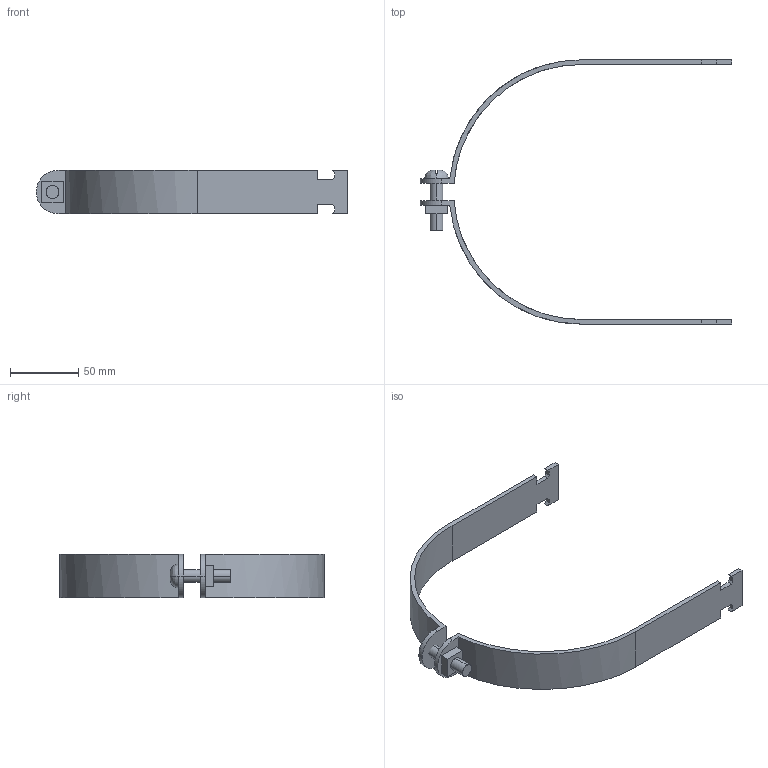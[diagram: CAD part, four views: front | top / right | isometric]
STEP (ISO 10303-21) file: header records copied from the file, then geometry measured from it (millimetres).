
FILE_DESCRIPTION(('TurboCAD Mac Pro'),'Build 980');
FILE_NAME('P2070-73.stp',' ',(''),(''),'ACIS Interop','IMSI','TurboCAD Mac Pro BY IMSI, INCORPORATED');
FILE_SCHEMA(('automotive_design'));
Length unit declared in the file: inch
Products named in the file (5): 1; 2; 3; 4; 5
Bounding box: 228.6 x 194.04 x 31.75 mm (x, y, z)
Volume: 62916.9 mm3; surface area: 40986.6 mm2
Topology: 4 solids, 4 shells, 71 faces, 186 edges, 124 vertices
Faces by surface type: plane 51, bspline 20
Entity records: 3487 total; most frequent: CARTESIAN_POINT 1050, ORIENTED_EDGE 372, DIRECTION 258, EDGE_CURVE 186, LINE 138, VECTOR 138, VERTEX_POINT 124, STYLED_ITEM 91
